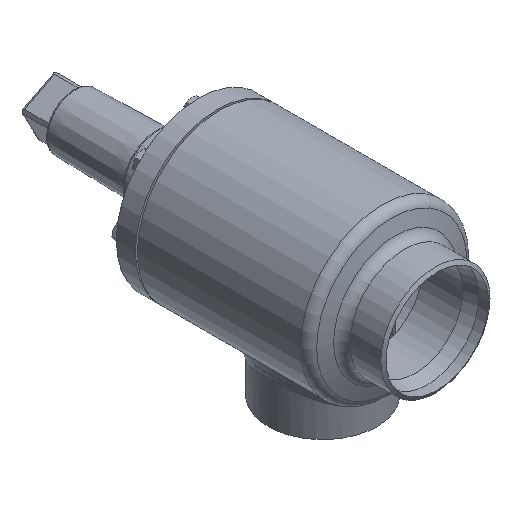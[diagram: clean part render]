
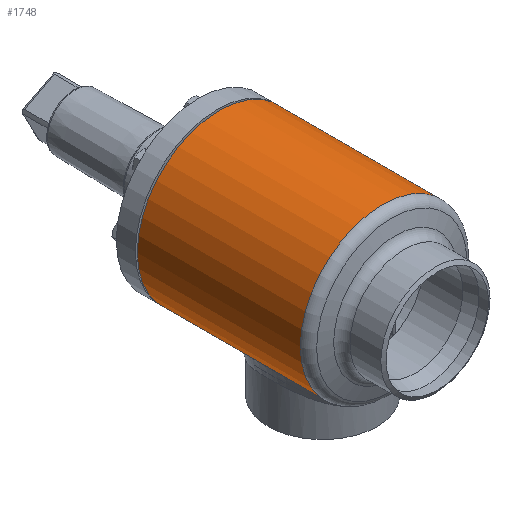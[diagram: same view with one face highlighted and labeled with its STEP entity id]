
A CAD part, isometric view. The second image highlights one B-rep face of the part: STEP entity #1748.
In plain terms, the highlighted cylindrical face has radius 86 mm (diameter 172 mm), a full revolution.
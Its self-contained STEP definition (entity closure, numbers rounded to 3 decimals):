
#146=CIRCLE('',#1889,86.);
#149=CIRCLE('',#1894,86.);
#419=FACE_BOUND('',#672,.T.);
#420=FACE_BOUND('',#673,.T.);
#531=FACE_OUTER_BOUND('',#671,.T.);
#671=EDGE_LOOP('',(#1318));
#672=EDGE_LOOP('',(#1319,#1320));
#673=EDGE_LOOP('',(#1321));
#911=B_SPLINE_CURVE_WITH_KNOTS('',3,(#3662,#3663,#3664,#3665,#3666,#3667,
#3668,#3669,#3670,#3671,#3672,#3673,#3674,#3675,#3676,#3677,#3678,#3679,
#3680,#3681,#3682,#3683,#3684,#3685,#3686,#3687,#3688,#3689,#3690,#3691,
#3692,#3693,#3694,#3695),.UNSPECIFIED.,.F.,.F.,(4,2,2,2,2,2,2,2,2,2,2,2,
2,2,2,2,4),(8.425,9.474,10.523,11.572,
12.621,13.679,14.736,15.793,16.851,
17.908,18.966,20.023,21.081,22.13,
23.179,24.228,25.276),.UNSPECIFIED.);
#912=B_SPLINE_CURVE_WITH_KNOTS('',3,(#3696,#3697,#3698,#3699,#3700,#3701,
#3702,#3703,#3704,#3705,#3706,#3707,#3708,#3709,#3710,#3711,#3712,#3713,
#3714,#3715,#3716,#3717,#3718,#3719,#3720,#3721,#3722,#3723,#3724,#3725,
#3726,#3727,#3728,#3729,#3730),.UNSPECIFIED.,.F.,.F.,(4,2,2,2,2,2,2,2,3,
2,2,2,2,2,2,2,4),(25.276,26.325,27.374,28.423,
29.472,30.529,31.587,32.644,33.702,
34.759,35.817,36.874,37.932,38.981,
40.03,41.078,42.127),.UNSPECIFIED.);
#937=VERTEX_POINT('',#3660);
#938=VERTEX_POINT('',#3661);
#940=VERTEX_POINT('',#3736);
#943=VERTEX_POINT('',#3744);
#1102=EDGE_CURVE('',#937,#938,#911,.T.);
#1103=EDGE_CURVE('',#938,#937,#912,.T.);
#1106=EDGE_CURVE('',#940,#940,#146,.T.);
#1109=EDGE_CURVE('',#943,#943,#149,.T.);
#1318=ORIENTED_EDGE('',*,*,#1109,.T.);
#1319=ORIENTED_EDGE('',*,*,#1102,.T.);
#1320=ORIENTED_EDGE('',*,*,#1103,.T.);
#1321=ORIENTED_EDGE('',*,*,#1106,.F.);
#1688=CYLINDRICAL_SURFACE('',#1893,86.);
#1748=ADVANCED_FACE('',(#531,#419,#420),#1688,.T.);
#1889=AXIS2_PLACEMENT_3D('',#3737,#2177,#2178);
#1893=AXIS2_PLACEMENT_3D('',#3743,#2185,#2186);
#1894=AXIS2_PLACEMENT_3D('',#3745,#2187,#2188);
#2177=DIRECTION('center_axis',(0.,0.,-1.));
#2178=DIRECTION('ref_axis',(1.,0.,0.));
#2185=DIRECTION('center_axis',(0.,0.,-1.));
#2186=DIRECTION('ref_axis',(-1.,0.,0.));
#2187=DIRECTION('center_axis',(0.,0.,-1.));
#2188=DIRECTION('ref_axis',(-1.,0.,0.));
#3660=CARTESIAN_POINT('',(86.,0.,66.));
#3661=CARTESIAN_POINT('',(86.,0.,174.));
#3662=CARTESIAN_POINT('Ctrl Pts',(86.,0.,66.));
#3663=CARTESIAN_POINT('Ctrl Pts',(86.,-3.496,66.));
#3664=CARTESIAN_POINT('Ctrl Pts',(85.782,-7.081,66.345));
#3665=CARTESIAN_POINT('Ctrl Pts',(84.903,-14.15,67.762));
#3666=CARTESIAN_POINT('Ctrl Pts',(84.242,-17.634,68.834));
#3667=CARTESIAN_POINT('Ctrl Pts',(82.577,-24.263,71.624));
#3668=CARTESIAN_POINT('Ctrl Pts',(81.573,-27.413,73.344));
#3669=CARTESIAN_POINT('Ctrl Pts',(79.391,-33.207,77.274));
#3670=CARTESIAN_POINT('Ctrl Pts',(78.215,-35.851,79.483));
#3671=CARTESIAN_POINT('Ctrl Pts',(75.893,-40.536,84.168));
#3672=CARTESIAN_POINT('Ctrl Pts',(74.658,-42.749,86.822));
#3673=CARTESIAN_POINT('Ctrl Pts',(72.271,-46.671,92.613));
#3674=CARTESIAN_POINT('Ctrl Pts',(71.12,-48.382,95.752));
#3675=CARTESIAN_POINT('Ctrl Pts',(69.149,-51.16,102.352));
#3676=CARTESIAN_POINT('Ctrl Pts',(68.329,-52.23,105.822));
#3677=CARTESIAN_POINT('Ctrl Pts',(67.22,-53.65,112.883));
#3678=CARTESIAN_POINT('Ctrl Pts',(66.933,-54.,116.475));
#3679=CARTESIAN_POINT('Ctrl Pts',(66.933,-54.,123.525));
#3680=CARTESIAN_POINT('Ctrl Pts',(67.22,-53.65,127.117));
#3681=CARTESIAN_POINT('Ctrl Pts',(68.329,-52.23,134.178));
#3682=CARTESIAN_POINT('Ctrl Pts',(69.149,-51.16,137.648));
#3683=CARTESIAN_POINT('Ctrl Pts',(71.12,-48.382,144.248));
#3684=CARTESIAN_POINT('Ctrl Pts',(72.271,-46.671,147.387));
#3685=CARTESIAN_POINT('Ctrl Pts',(74.658,-42.749,153.178));
#3686=CARTESIAN_POINT('Ctrl Pts',(75.893,-40.536,155.832));
#3687=CARTESIAN_POINT('Ctrl Pts',(78.215,-35.851,160.517));
#3688=CARTESIAN_POINT('Ctrl Pts',(79.391,-33.207,162.726));
#3689=CARTESIAN_POINT('Ctrl Pts',(81.573,-27.413,166.656));
#3690=CARTESIAN_POINT('Ctrl Pts',(82.577,-24.263,168.376));
#3691=CARTESIAN_POINT('Ctrl Pts',(84.242,-17.634,171.166));
#3692=CARTESIAN_POINT('Ctrl Pts',(84.903,-14.15,172.238));
#3693=CARTESIAN_POINT('Ctrl Pts',(85.782,-7.081,173.655));
#3694=CARTESIAN_POINT('Ctrl Pts',(86.,-3.496,174.));
#3695=CARTESIAN_POINT('Ctrl Pts',(86.,0.,174.));
#3696=CARTESIAN_POINT('Ctrl Pts',(86.,0.,174.));
#3697=CARTESIAN_POINT('Ctrl Pts',(86.,3.496,174.));
#3698=CARTESIAN_POINT('Ctrl Pts',(85.782,7.081,173.655));
#3699=CARTESIAN_POINT('Ctrl Pts',(84.903,14.15,172.238));
#3700=CARTESIAN_POINT('Ctrl Pts',(84.242,17.634,171.166));
#3701=CARTESIAN_POINT('Ctrl Pts',(82.577,24.263,168.376));
#3702=CARTESIAN_POINT('Ctrl Pts',(81.573,27.413,166.656));
#3703=CARTESIAN_POINT('Ctrl Pts',(79.391,33.207,162.726));
#3704=CARTESIAN_POINT('Ctrl Pts',(78.215,35.851,160.517));
#3705=CARTESIAN_POINT('Ctrl Pts',(75.893,40.536,155.832));
#3706=CARTESIAN_POINT('Ctrl Pts',(74.658,42.749,153.178));
#3707=CARTESIAN_POINT('Ctrl Pts',(72.271,46.671,147.387));
#3708=CARTESIAN_POINT('Ctrl Pts',(71.12,48.382,144.248));
#3709=CARTESIAN_POINT('Ctrl Pts',(69.149,51.16,137.648));
#3710=CARTESIAN_POINT('Ctrl Pts',(68.329,52.23,134.178));
#3711=CARTESIAN_POINT('Ctrl Pts',(67.22,53.65,127.117));
#3712=CARTESIAN_POINT('Ctrl Pts',(66.933,54.,123.525));
#3713=CARTESIAN_POINT('Ctrl Pts',(66.933,54.,120.));
#3714=CARTESIAN_POINT('Ctrl Pts',(66.933,54.,116.475));
#3715=CARTESIAN_POINT('Ctrl Pts',(67.22,53.65,112.883));
#3716=CARTESIAN_POINT('Ctrl Pts',(68.329,52.23,105.822));
#3717=CARTESIAN_POINT('Ctrl Pts',(69.149,51.16,102.352));
#3718=CARTESIAN_POINT('Ctrl Pts',(71.12,48.382,95.752));
#3719=CARTESIAN_POINT('Ctrl Pts',(72.271,46.671,92.613));
#3720=CARTESIAN_POINT('Ctrl Pts',(74.658,42.749,86.822));
#3721=CARTESIAN_POINT('Ctrl Pts',(75.893,40.536,84.168));
#3722=CARTESIAN_POINT('Ctrl Pts',(78.215,35.851,79.483));
#3723=CARTESIAN_POINT('Ctrl Pts',(79.391,33.207,77.274));
#3724=CARTESIAN_POINT('Ctrl Pts',(81.573,27.413,73.344));
#3725=CARTESIAN_POINT('Ctrl Pts',(82.577,24.263,71.624));
#3726=CARTESIAN_POINT('Ctrl Pts',(84.242,17.634,68.834));
#3727=CARTESIAN_POINT('Ctrl Pts',(84.903,14.15,67.762));
#3728=CARTESIAN_POINT('Ctrl Pts',(85.782,7.081,66.345));
#3729=CARTESIAN_POINT('Ctrl Pts',(86.,3.496,66.));
#3730=CARTESIAN_POINT('Ctrl Pts',(86.,0.,66.));
#3736=CARTESIAN_POINT('',(-86.,0.,57.404));
#3737=CARTESIAN_POINT('Origin',(0.,0.,57.404));
#3743=CARTESIAN_POINT('Origin',(0.,0.,138.865));
#3744=CARTESIAN_POINT('',(-86.,0.,228.));
#3745=CARTESIAN_POINT('Origin',(0.,0.,228.));
